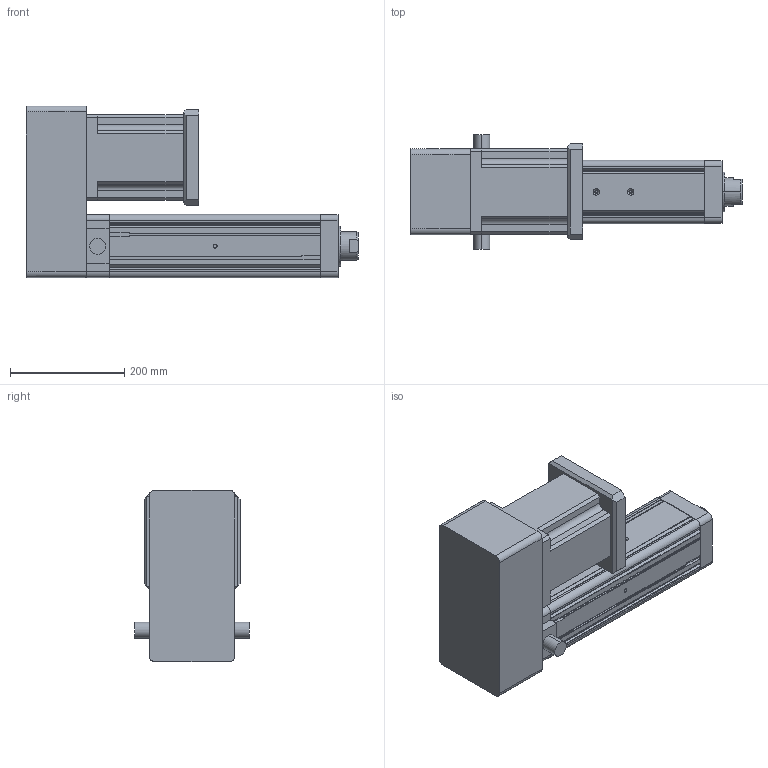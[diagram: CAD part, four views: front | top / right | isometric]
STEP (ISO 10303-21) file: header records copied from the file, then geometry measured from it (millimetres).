
FILE_DESCRIPTION (( 'STEP AP203' ), '1' );
FILE_NAME ('YRJ110-L200-H4K2.STEP', '2020-01-06T01:20:22', ( 'User' ), ( 'China' ), 'SwSTEP 2.0', 'SolidWorks 2016', '' );
FILE_SCHEMA (( 'CONFIG_CONTROL_DESIGN' ));
Length unit declared in the file: millimetre
Products named in the file (7): H5-110-1; H5-110-2; 萇儂碟-110; K2-110; YRJ110-L200-H4K2; 095-100俴最倰第; 142熬厒儂
Assembly tree (6 placements, depth 2):
  YRJ110-L200-H4K2
    095-100俴最倰第
    142熬厒儂
    H5-110-1
    H5-110-2
    萇儂碟-110
    K2-110
Bounding box: 581 x 200 x 300.5 mm (x, y, z)
Volume: 11341157.4 mm3; surface area: 815230.5 mm2
Topology: 6 solids, 6 shells, 311 faces, 850 edges, 549 vertices
Faces by surface type: plane 174, cylinder 110, cone 27
Entity records: 10800 total; most frequent: CARTESIAN_POINT 2043, DIRECTION 1687, ORIENTED_EDGE 1668, EDGE_CURVE 834, VECTOR 577, LINE 577, AXIS2_PLACEMENT_3D 555, VERTEX_POINT 549
